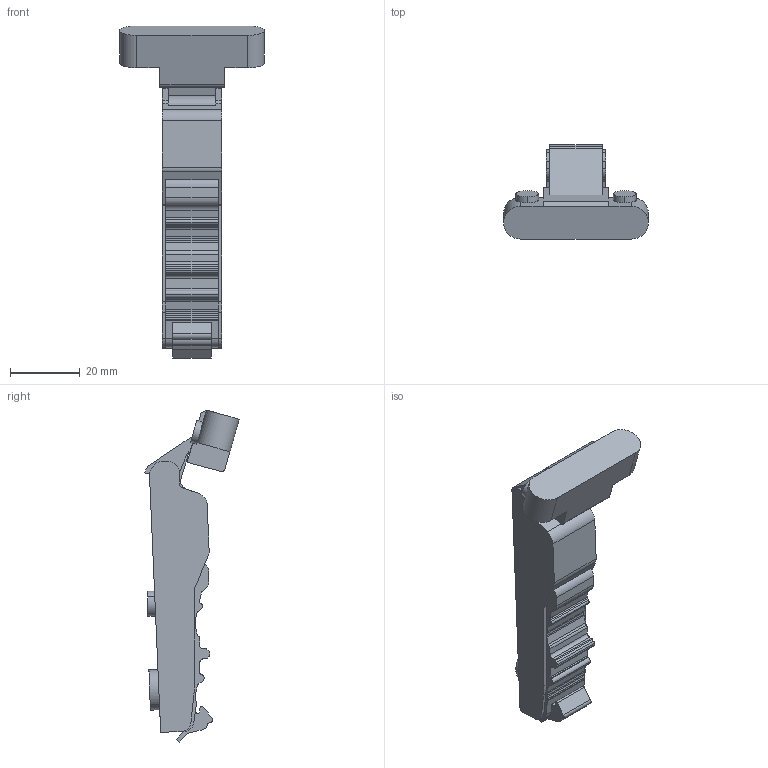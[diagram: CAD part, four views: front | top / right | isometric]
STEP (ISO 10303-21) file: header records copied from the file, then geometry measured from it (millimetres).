
FILE_DESCRIPTION (( 'STEP AP203' ), '1' );
FILE_NAME ('C82A678FA-DTC 3D open.STEP', '2024-09-06T02:06:53', ( '微软用户' ), ( '微软中国' ), 'SwSTEP 2.0', 'SolidWorks 2021', '' );
FILE_SCHEMA (( 'CONFIG_CONTROL_DESIGN' ));
Length unit declared in the file: millimetre
Products named in the file (1): C82A678FA-DTC 3D open
Bounding box: 41.6 x 27.11 x 95.43 mm (x, y, z)
Volume: 23614.4 mm3; surface area: 7923.4 mm2
Topology: 1 solids, 1 shells, 151 faces, 433 edges, 287 vertices
Faces by surface type: plane 80, cylinder 71
Entity records: 5056 total; most frequent: CARTESIAN_POINT 896, DIRECTION 877, ORIENTED_EDGE 866, EDGE_CURVE 433, AXIS2_PLACEMENT_3D 300, VERTEX_POINT 287, VECTOR 277, LINE 277
